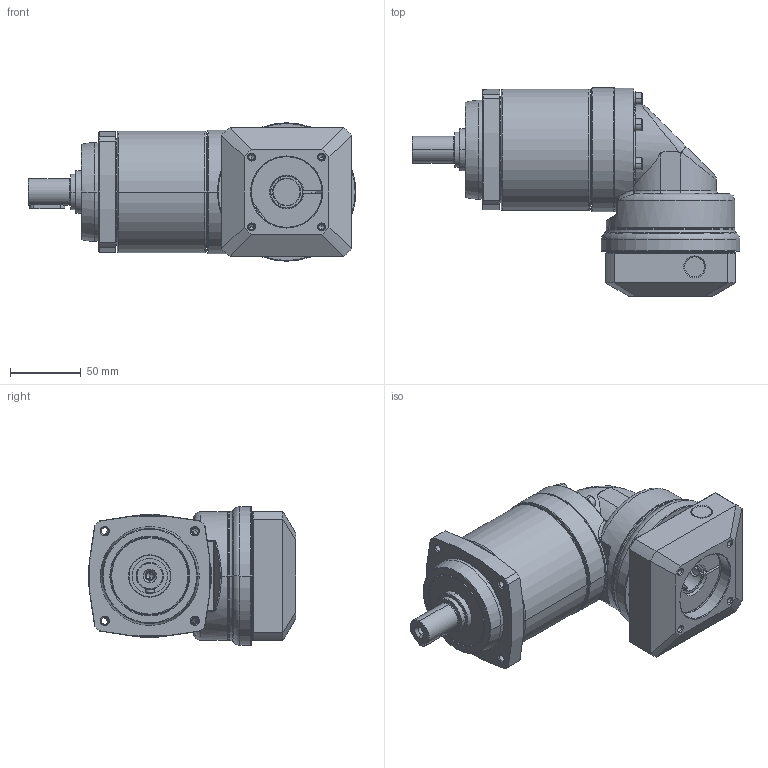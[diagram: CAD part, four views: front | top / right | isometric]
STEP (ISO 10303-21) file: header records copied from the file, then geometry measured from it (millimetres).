
FILE_DESCRIPTION((''),'2;1');
FILE_NAME('PS2R-C_2ST_19-P0411400101_ASM','2016-06-01T',('d01943'),(''),'PRO/ENGINEER BY PARAMETRIC TECHNOLOGY CORPORATION, 2008410','PRO/ENGINEER BY PARAMETRIC TECHNOLOGY CORPORATION, 2008410','');
FILE_SCHEMA(('CONFIG_CONTROL_DESIGN'));
Length unit declared in the file: millimetre
Products named in the file (12): P1328310001; P0251300001; P0350301401; P1349300001; P1017300001; P0713301001; P0503400008; P1350300101; P0411400101; P1702500001; 2111BA05025; PS2R-C_2ST_19-P0411400101_ASM
Assembly tree (16 placements, depth 2):
  PS2R-C_2ST_19-P0411400101_ASM
    P1328310001
    P0251300001
    P0350301401
    P1349300001
    P1017300001
    P0713301001
    P0503400008
    P1350300101
    P0411400101
    P1702500001
    2111BA05025  x6
Bounding box: 232 x 147.25 x 98 mm (x, y, z)
Volume: 858123 mm3; surface area: 214749.9 mm2
Topology: 16 solids, 16 shells, 803 faces, 1763 edges, 1022 vertices
Faces by surface type: cylinder 250, cone 232, plane 191, torus 96, bspline 34
Entity records: 23627 total; most frequent: CARTESIAN_POINT 9264, DIRECTION 3192, ORIENTED_EDGE 2774, EDGE_CURVE 1387, AXIS2_PLACEMENT_3D 1353, VERTEX_POINT 822, EDGE_LOOP 727, CIRCLE 721
